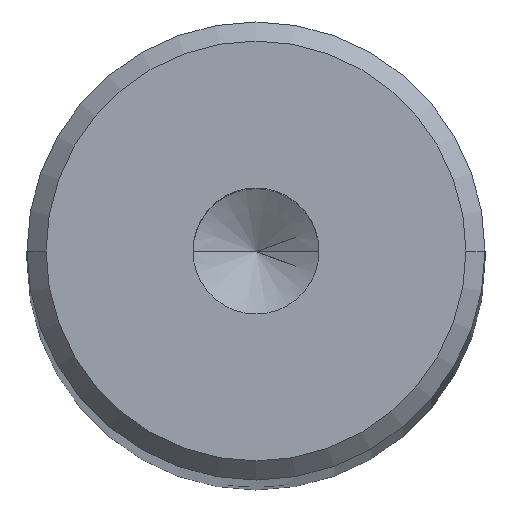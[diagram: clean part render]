
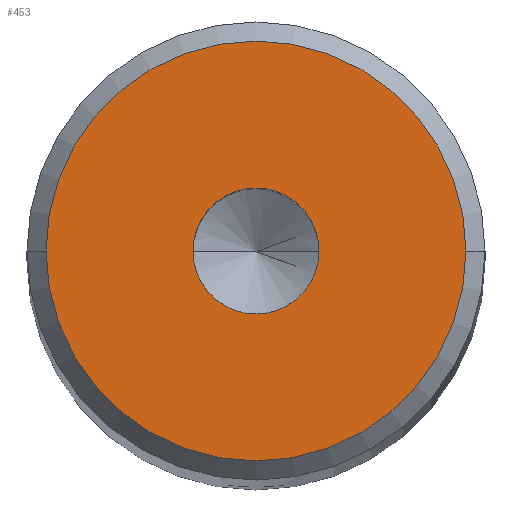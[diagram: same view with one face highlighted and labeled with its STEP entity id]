
A CAD part, top view. The second image highlights one B-rep face of the part: STEP entity #453.
In plain terms, the highlighted planar face has unit normal (0, 0, 1).
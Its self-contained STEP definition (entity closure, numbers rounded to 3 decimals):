
#4 = VERTEX_POINT ( 'NONE', #234 ) ;
#5 = DIRECTION ( 'NONE',  ( 1., 0., 0. ) ) ;
#13 = AXIS2_PLACEMENT_3D ( 'NONE', #465, #369, #377 ) ;
#24 = CARTESIAN_POINT ( 'NONE',  ( 0., 0., 150. ) ) ;
#37 = FACE_OUTER_BOUND ( 'NONE', #308, .T. ) ;
#54 = ORIENTED_EDGE ( 'NONE', *, *, #588, .F. ) ;
#105 = EDGE_LOOP ( 'NONE', ( #54, #516 ) ) ;
#107 = DIRECTION ( 'NONE',  ( 0., 0., 1. ) ) ;
#129 = AXIS2_PLACEMENT_3D ( 'NONE', #24, #303, #161 ) ;
#141 = DIRECTION ( 'NONE',  ( 1., 0., 0. ) ) ;
#150 = FACE_BOUND ( 'NONE', #105, .T. ) ;
#157 = CIRCLE ( 'NONE', #13, 5.5 ) ;
#158 = CIRCLE ( 'NONE', #129, 1.65 ) ;
#159 = EDGE_CURVE ( 'NONE', #426, #551, #158, .T. ) ;
#161 = DIRECTION ( 'NONE',  ( 1., 0., 0. ) ) ;
#178 = PLANE ( 'NONE',  #459 ) ;
#191 = DIRECTION ( 'NONE',  ( 1., 0., 0. ) ) ;
#234 = CARTESIAN_POINT ( 'NONE',  ( 5.5, 0., 150. ) ) ;
#268 = CARTESIAN_POINT ( 'NONE',  ( -1.65, 0., 150. ) ) ;
#269 = CARTESIAN_POINT ( 'NONE',  ( 0., 0., 150. ) ) ;
#275 = DIRECTION ( 'NONE',  ( 0., 0., 1. ) ) ;
#303 = DIRECTION ( 'NONE',  ( 0., 0., 1. ) ) ;
#308 = EDGE_LOOP ( 'NONE', ( #492, #396 ) ) ;
#322 = AXIS2_PLACEMENT_3D ( 'NONE', #428, #325, #141 ) ;
#325 = DIRECTION ( 'NONE',  ( 0., 0., 1. ) ) ;
#327 = CARTESIAN_POINT ( 'NONE',  ( 1.65, 0., 150. ) ) ;
#331 = VERTEX_POINT ( 'NONE', #537 ) ;
#332 = AXIS2_PLACEMENT_3D ( 'NONE', #565, #107, #191 ) ;
#369 = DIRECTION ( 'NONE',  ( 0., 0., 1. ) ) ;
#377 = DIRECTION ( 'NONE',  ( 1., 0., 0. ) ) ;
#388 = CIRCLE ( 'NONE', #332, 1.65 ) ;
#396 = ORIENTED_EDGE ( 'NONE', *, *, #473, .T. ) ;
#426 = VERTEX_POINT ( 'NONE', #268 ) ;
#428 = CARTESIAN_POINT ( 'NONE',  ( 0., 0., 150. ) ) ;
#453 = ADVANCED_FACE ( 'NONE', ( #150, #37 ), #178, .T. ) ;
#455 = CIRCLE ( 'NONE', #322, 5.5 ) ;
#459 = AXIS2_PLACEMENT_3D ( 'NONE', #269, #275, #5 ) ;
#465 = CARTESIAN_POINT ( 'NONE',  ( 0., 0., 150. ) ) ;
#473 = EDGE_CURVE ( 'NONE', #4, #331, #455, .T. ) ;
#492 = ORIENTED_EDGE ( 'NONE', *, *, #544, .T. ) ;
#516 = ORIENTED_EDGE ( 'NONE', *, *, #159, .F. ) ;
#537 = CARTESIAN_POINT ( 'NONE',  ( -5.5, 0., 150. ) ) ;
#544 = EDGE_CURVE ( 'NONE', #331, #4, #157, .T. ) ;
#551 = VERTEX_POINT ( 'NONE', #327 ) ;
#565 = CARTESIAN_POINT ( 'NONE',  ( 0., 0., 150. ) ) ;
#588 = EDGE_CURVE ( 'NONE', #551, #426, #388, .T. ) ;
